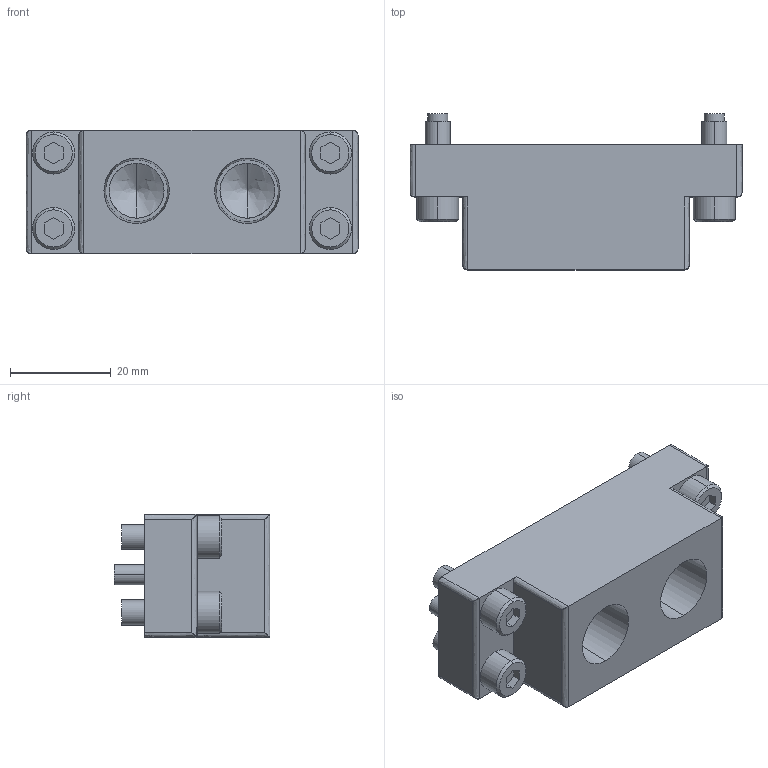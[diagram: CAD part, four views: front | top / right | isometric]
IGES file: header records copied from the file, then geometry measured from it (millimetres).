
Start section: 3D InterOp IGES (v. 2022 1.0.0), Spatial Corp. Copyright (c) 1999-2020.
Global section: file name: KHB-45~300RS-EP82_ver1.igs; native system: Spatial Corp.; preprocessor: 3D InterOp GENERIC/IGES 3.0; author: Noname; organization: Noname; date: 20260427.143850; units: millimetre
Bounding box: 66 x 31 x 24.5 mm (x, y, z)
Surface area: 11303.6 mm2 (no closed solid volume)
Topology: 0 solids, 0 shells, 137 faces, 628 edges, 624 vertices
Faces by surface type: revolution 77, extrusion 60
